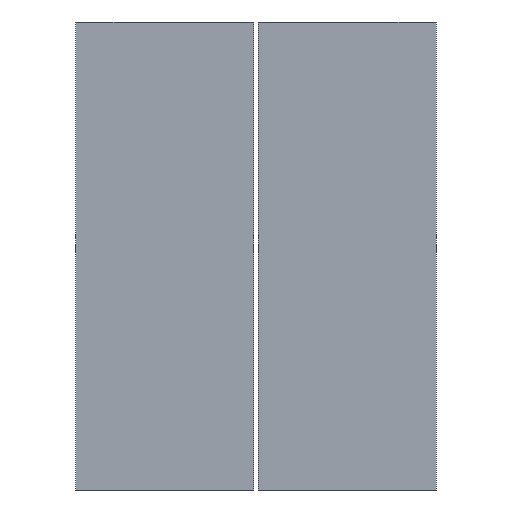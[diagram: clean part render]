
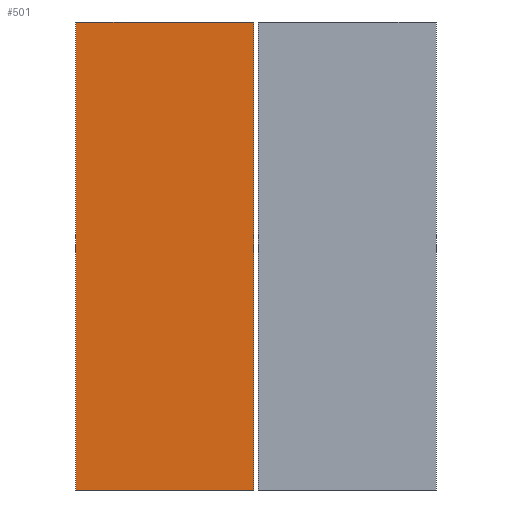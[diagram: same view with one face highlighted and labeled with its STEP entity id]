
A CAD part, front view. The second image highlights one B-rep face of the part: STEP entity #501.
In plain terms, the highlighted planar face has unit normal (0, -1, 0).
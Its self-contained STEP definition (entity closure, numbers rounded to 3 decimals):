
#70=ORIENTED_EDGE('',*,*,#213,.F.);
#71=ORIENTED_EDGE('',*,*,#212,.F.);
#72=ORIENTED_EDGE('',*,*,#214,.T.);
#73=ORIENTED_EDGE('',*,*,#215,.T.);
#212=EDGE_CURVE('',#283,#282,#332,.T.);
#213=EDGE_CURVE('',#282,#284,#333,.T.);
#214=EDGE_CURVE('',#283,#285,#334,.T.);
#215=EDGE_CURVE('',#285,#284,#335,.T.);
#282=VERTEX_POINT('',#750);
#283=VERTEX_POINT('',#752);
#284=VERTEX_POINT('',#756);
#285=VERTEX_POINT('',#758);
#332=LINE('',#753,#384);
#333=LINE('',#755,#385);
#334=LINE('',#757,#386);
#335=LINE('',#759,#387);
#384=VECTOR('',#597,1000.);
#385=VECTOR('',#600,1000.);
#386=VECTOR('',#601,1000.);
#387=VECTOR('',#602,1000.);
#429=EDGE_LOOP('',(#70,#71,#72,#73));
#457=FACE_BOUND('',#429,.T.);
#485=PLANE('',#534);
#501=ADVANCED_FACE('',(#457),#485,.T.);
#534=AXIS2_PLACEMENT_3D('',#754,#598,#599);
#597=DIRECTION('',(0.,0.,1.));
#598=DIRECTION('',(0.,-1.,0.));
#599=DIRECTION('',(0.,0.,-1.));
#600=DIRECTION('',(1.,0.,0.));
#601=DIRECTION('',(1.,0.,0.));
#602=DIRECTION('',(0.,0.,1.));
#750=CARTESIAN_POINT('',(-38.,0.,0.));
#752=CARTESIAN_POINT('',(-38.,0.,-200.));
#753=CARTESIAN_POINT('',(-38.,0.,-200.));
#754=CARTESIAN_POINT('',(-38.,0.,-200.));
#755=CARTESIAN_POINT('',(-38.,0.,0.));
#756=CARTESIAN_POINT('',(38.,0.,0.));
#757=CARTESIAN_POINT('',(-38.,0.,-200.));
#758=CARTESIAN_POINT('',(38.,0.,-200.));
#759=CARTESIAN_POINT('',(38.,0.,-200.));
